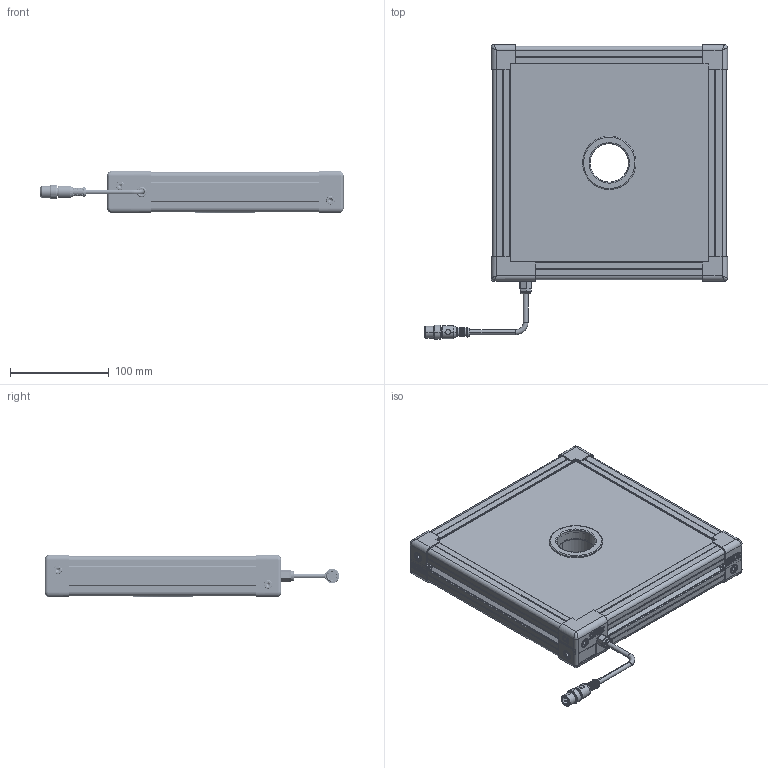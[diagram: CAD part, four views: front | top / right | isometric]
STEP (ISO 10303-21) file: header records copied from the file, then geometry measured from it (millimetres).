
FILE_DESCRIPTION (( 'STEP AP214' ), '1' );
FILE_NAME ('EFFI-FD-200-200-XXX.STEP', '2018-09-07T07:31:26', ( '' ), ( '' ), 'SwSTEP 2.0', 'SolidWorks 2018', '' );
FILE_SCHEMA (( 'AUTOMOTIVE_DESIGN' ));
Length unit declared in the file: millimetre
Products named in the file (12): 001036; 000018; 001506B199_lg 99.5 mm; 000629; 001044; 001043; 001035; 000590; 003498; 003511; EFFI-FD-200-200-XXX; 000121
Assembly tree (25 placements, depth 2):
  EFFI-FD-200-200-XXX
    001506B199_lg 99.5 mm  x4
    001044
    001043  x3
    003498
    000629  x8
    000590  x3
    000121
    000018
    003511
    001035
    001036
Bounding box: 306.9 x 298.4 x 43.2 mm (x, y, z)
Volume: 843269.7 mm3; surface area: 473841.2 mm2
Topology: 24 solids, 29 shells, 4476 faces, 11850 edges, 7803 vertices
Faces by surface type: plane 2844, cylinder 909, bspline 527, cone 168, torus 28
Entity records: 77339 total; most frequent: CARTESIAN_POINT 27215, ORIENTED_EDGE 10258, DIRECTION 8912, EDGE_CURVE 5133, LINE 3828, VECTOR 3828, VERTEX_POINT 3386, AXIS2_PLACEMENT_3D 2542
